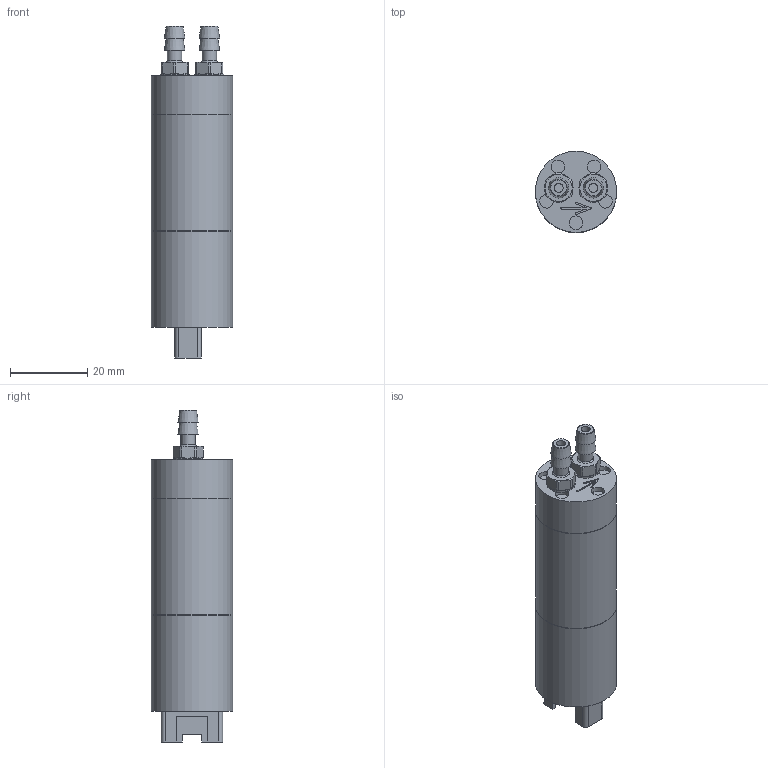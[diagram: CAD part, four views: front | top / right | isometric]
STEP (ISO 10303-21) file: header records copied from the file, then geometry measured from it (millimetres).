
FILE_DESCRIPTION(/* description */ ('','CAx-IF Rec.Pracs.---Representation and Presentation of Product Manufacturing Information (PMI)---4.0---2014-10-13'),/* implementation_level */ '2;1');
FILE_NAME(/* name */ 'CerpadloPaliva-H20-MPX v3.step',/* time_stamp */ '2024-12-11T15:05:50+01:00',/* author */ (''),/* organization */ (''),/* preprocessor_version */ 'ST-DEVELOPER v20',/* originating_system */ 'Autodesk Translation Framework v13.20.0.188',/* authorisation */ '');
FILE_SCHEMA (('AP242_MANAGED_MODEL_BASED_3D_ENGINEERING_MIM_LF { 1 0 10303 442 1 1 4 }'));
Length unit declared in the file: millimetre
Products named in the file (2): CerpadloPaliva-H20-MPX; FitinkaM5_ID4
Assembly tree (2 placements, depth 2):
  CerpadloPaliva-H20-MPX
    FitinkaM5_ID4  x2
Bounding box: 21 x 21 x 85.91 mm (x, y, z)
Volume: 23160.3 mm3; surface area: 7018.6 mm2
Topology: 4 solids, 4 shells, 152 faces, 332 edges, 210 vertices
Faces by surface type: plane 64, cylinder 44, cone 36, torus 8
Full cylindrical faces by diameter (mm): 2.333 x2, 3.5 x5, 3.733 x4, 4.234 x2, 4.356 x2, 4.667 x2, 7.467 x2, 20.6 x2, 21 x3
Entity records: 2937 total; most frequent: CARTESIAN_POINT 533, DIRECTION 518, ORIENTED_EDGE 458, EDGE_CURVE 229, AXIS2_PLACEMENT_3D 204, VERTEX_POINT 147, EDGE_LOOP 124, LINE 110
